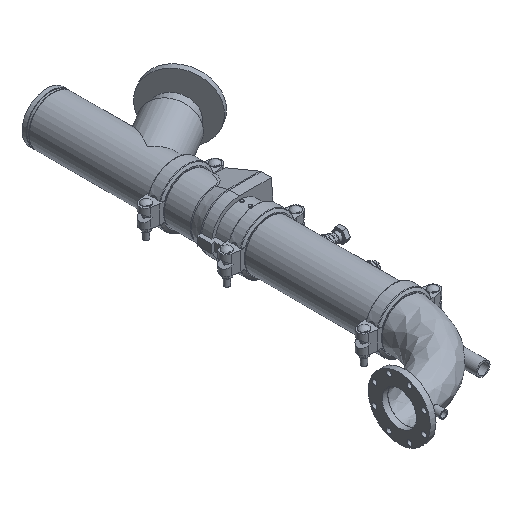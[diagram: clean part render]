
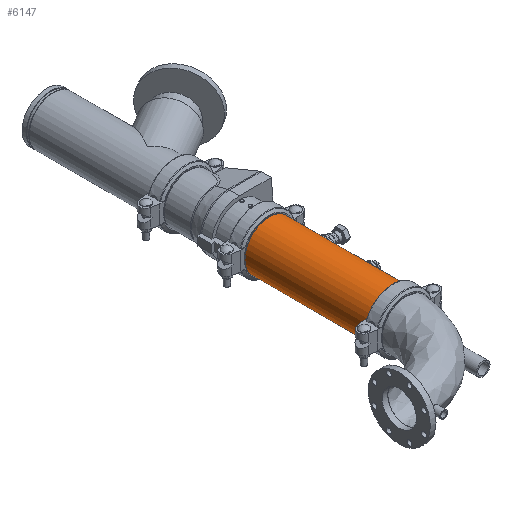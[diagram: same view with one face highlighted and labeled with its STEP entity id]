
A CAD part, isometric view. The second image highlights one B-rep face of the part: STEP entity #6147.
In plain terms, the highlighted cylindrical face has radius 109.537 mm (diameter 219.075 mm), a full revolution.
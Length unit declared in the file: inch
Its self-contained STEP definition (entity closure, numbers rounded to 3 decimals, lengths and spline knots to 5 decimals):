
#180=LINE('',#9322,#624);
#624=VECTOR('',#7420,4.3125);
#1068=CYLINDRICAL_SURFACE('',#6668,4.3125);
#1267=FACE_OUTER_BOUND('',#1610,.T.);
#1610=EDGE_LOOP('',(#3861,#3862,#3863,#3864,#3865,#3866));
#2030=CIRCLE('',#6666,4.3125);
#2031=CIRCLE('',#6667,4.3125);
#2032=CIRCLE('',#6669,4.3125);
#2033=CIRCLE('',#6670,4.3125);
#2380=VERTEX_POINT('',#9313);
#2381=VERTEX_POINT('',#9314);
#2382=VERTEX_POINT('',#9318);
#2383=VERTEX_POINT('',#9319);
#2977=EDGE_CURVE('',#2380,#2381,#2030,.T.);
#2978=EDGE_CURVE('',#2381,#2380,#2031,.T.);
#2979=EDGE_CURVE('',#2382,#2383,#2032,.T.);
#2980=EDGE_CURVE('',#2383,#2382,#2033,.T.);
#2981=EDGE_CURVE('',#2383,#2381,#180,.T.);
#3861=ORIENTED_EDGE('',*,*,#2979,.F.);
#3862=ORIENTED_EDGE('',*,*,#2980,.F.);
#3863=ORIENTED_EDGE('',*,*,#2981,.T.);
#3864=ORIENTED_EDGE('',*,*,#2978,.T.);
#3865=ORIENTED_EDGE('',*,*,#2977,.T.);
#3866=ORIENTED_EDGE('',*,*,#2981,.F.);
#6147=ADVANCED_FACE('',(#1267),#1068,.T.);
#6666=AXIS2_PLACEMENT_3D('',#9315,#7410,#7411);
#6667=AXIS2_PLACEMENT_3D('',#9316,#7412,#7413);
#6668=AXIS2_PLACEMENT_3D('',#9317,#7414,#7415);
#6669=AXIS2_PLACEMENT_3D('',#9320,#7416,#7417);
#6670=AXIS2_PLACEMENT_3D('',#9321,#7418,#7419);
#7410=DIRECTION('center_axis',(1.,0.,0.));
#7411=DIRECTION('ref_axis',(0.,0.,-1.));
#7412=DIRECTION('center_axis',(1.,0.,0.));
#7413=DIRECTION('ref_axis',(0.,0.,-1.));
#7414=DIRECTION('center_axis',(1.,0.,0.));
#7415=DIRECTION('ref_axis',(0.,1.,0.));
#7416=DIRECTION('center_axis',(1.,0.,0.));
#7417=DIRECTION('ref_axis',(0.,0.,-1.));
#7418=DIRECTION('center_axis',(1.,0.,0.));
#7419=DIRECTION('ref_axis',(0.,0.,-1.));
#7420=DIRECTION('',(-1.,0.,0.));
#9313=CARTESIAN_POINT('',(-10.796,4.3125,0.));
#9314=CARTESIAN_POINT('',(-10.796,-4.3125,0.));
#9315=CARTESIAN_POINT('Origin',(-10.796,0.,0.));
#9316=CARTESIAN_POINT('Origin',(-10.796,0.,0.));
#9317=CARTESIAN_POINT('Origin',(0.,0.,0.));
#9318=CARTESIAN_POINT('',(10.796,4.3125,0.));
#9319=CARTESIAN_POINT('',(10.796,-4.3125,0.));
#9320=CARTESIAN_POINT('Origin',(10.796,0.,0.));
#9321=CARTESIAN_POINT('Origin',(10.796,0.,0.));
#9322=CARTESIAN_POINT('',(0.,-4.3125,0.));
